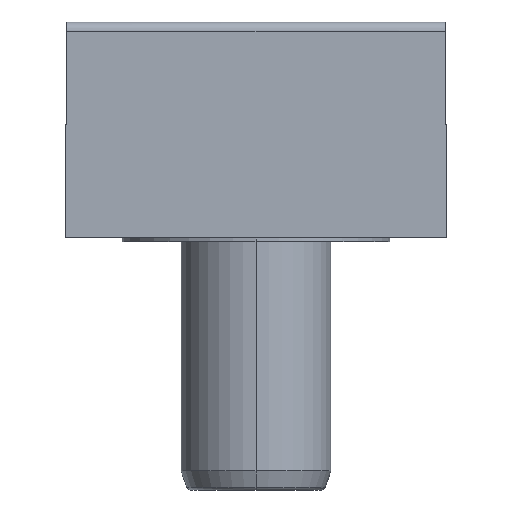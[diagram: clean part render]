
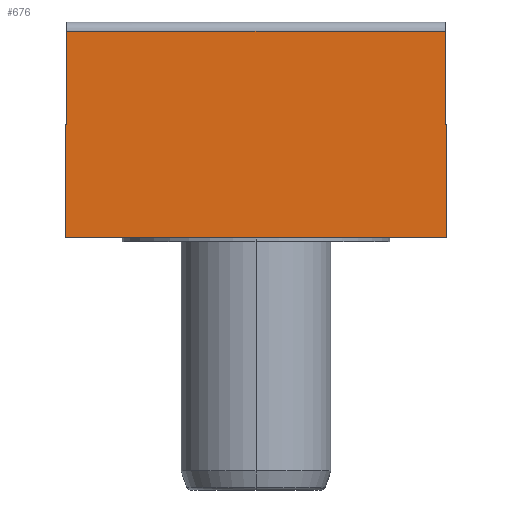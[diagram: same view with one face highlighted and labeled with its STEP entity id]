
A CAD part, left-side view. The second image highlights one B-rep face of the part: STEP entity #676.
In plain terms, the highlighted planar face has unit normal (-1, 0, 0.009).
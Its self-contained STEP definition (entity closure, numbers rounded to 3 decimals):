
#4 = CARTESIAN_POINT ( 'NONE',  ( 0.001, 19.999, 40.131 ) ) ;
#25 = DIRECTION ( 'NONE',  ( 0.009, 0.009, 1. ) ) ;
#48 = CARTESIAN_POINT ( 'NONE',  ( 0., 20., 40. ) ) ;
#71 = CARTESIAN_POINT ( 'NONE',  ( 0.096, 0.096, 51.004 ) ) ;
#75 = DIRECTION ( 'NONE',  ( 0.009, -0.009, 1. ) ) ;
#108 = VECTOR ( 'NONE', #75, 1000. ) ;
#114 = LINE ( 'NONE', #4, #108 ) ;
#116 = EDGE_CURVE ( 'NONE', #673, #548, #894, .T. ) ;
#200 = DIRECTION ( 'NONE',  ( -1., 0., 0.009 ) ) ;
#204 = DIRECTION ( 'NONE',  ( 0., 1., 0. ) ) ;
#211 = LINE ( 'NONE', #717, #846 ) ;
#228 = EDGE_CURVE ( 'NONE', #548, #637, #211, .T. ) ;
#238 = DIRECTION ( 'NONE',  ( 0., -1., 0. ) ) ;
#316 = CARTESIAN_POINT ( 'NONE',  ( 0.002, 20., 40.2 ) ) ;
#390 = ORIENTED_EDGE ( 'NONE', *, *, #116, .T. ) ;
#408 = DIRECTION ( 'NONE',  ( 0.009, 0., 1. ) ) ;
#426 = VECTOR ( 'NONE', #204, 1000. ) ;
#476 = PLANE ( 'NONE',  #485 ) ;
#485 = AXIS2_PLACEMENT_3D ( 'NONE', #48, #200, #408 ) ;
#548 = VERTEX_POINT ( 'NONE', #772 ) ;
#595 = VERTEX_POINT ( 'NONE', #701 ) ;
#596 = EDGE_CURVE ( 'NONE', #637, #595, #598, .T. ) ;
#598 = LINE ( 'NONE', #698, #426 ) ;
#618 = EDGE_CURVE ( 'NONE', #673, #595, #114, .T. ) ;
#637 = VERTEX_POINT ( 'NONE', #71 ) ;
#660 = FACE_OUTER_BOUND ( 'NONE', #794, .T. ) ;
#673 = VERTEX_POINT ( 'NONE', #779 ) ;
#676 = ADVANCED_FACE ( 'NONE', ( #660 ), #476, .T. ) ;
#698 = CARTESIAN_POINT ( 'NONE',  ( 0.096, 20., 51.004 ) ) ;
#701 = CARTESIAN_POINT ( 'NONE',  ( 0.096, 19.904, 51.004 ) ) ;
#702 = ORIENTED_EDGE ( 'NONE', *, *, #596, .T. ) ;
#717 = CARTESIAN_POINT ( 'NONE',  ( 0.002, 0.002, 40.175 ) ) ;
#718 = ORIENTED_EDGE ( 'NONE', *, *, #618, .F. ) ;
#772 = CARTESIAN_POINT ( 'NONE',  ( 0.002, 0.002, 40.2 ) ) ;
#779 = CARTESIAN_POINT ( 'NONE',  ( 0.002, 19.998, 40.2 ) ) ;
#794 = EDGE_LOOP ( 'NONE', ( #718, #390, #850, #702 ) ) ;
#834 = VECTOR ( 'NONE', #238, 1000. ) ;
#846 = VECTOR ( 'NONE', #25, 1000. ) ;
#850 = ORIENTED_EDGE ( 'NONE', *, *, #228, .T. ) ;
#894 = LINE ( 'NONE', #316, #834 ) ;
